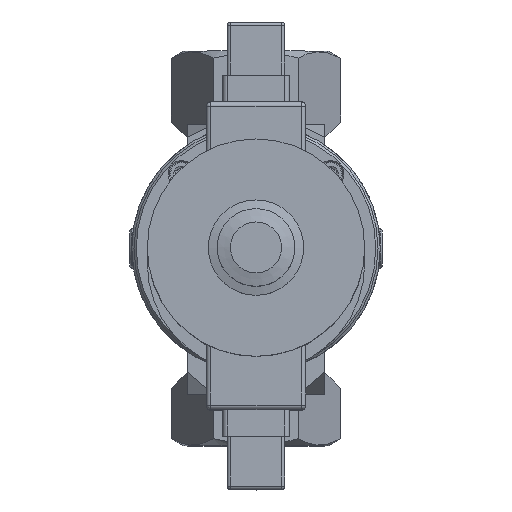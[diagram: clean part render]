
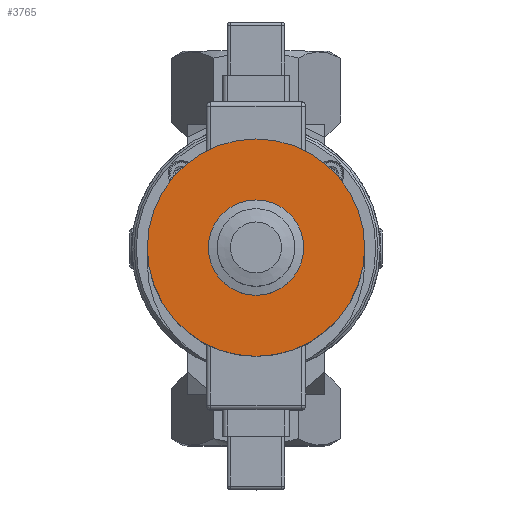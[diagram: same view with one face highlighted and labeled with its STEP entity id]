
A CAD part, top view. The second image highlights one B-rep face of the part: STEP entity #3765.
In plain terms, the highlighted planar face has unit normal (0, 0, 1).
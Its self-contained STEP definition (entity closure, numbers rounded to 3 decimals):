
#3765 = ADVANCED_FACE( '', ( #5992, #5993 ), #5994, .F. );
#5992 = FACE_BOUND( '', #8954, .T. );
#5993 = FACE_OUTER_BOUND( '', #8955, .T. );
#5994 = PLANE( '', #8956 );
#8954 = EDGE_LOOP( '', ( #14294 ) );
#8955 = EDGE_LOOP( '', ( #14295 ) );
#8956 = AXIS2_PLACEMENT_3D( '', #14296, #14297, #14298 );
#14294 = ORIENTED_EDGE( '', *, *, #15598, .T. );
#14295 = ORIENTED_EDGE( '', *, *, #15581, .F. );
#14296 = CARTESIAN_POINT( '', ( 0., -7., 80. ) );
#14297 = DIRECTION( '', ( 0., 0., -1. ) );
#14298 = DIRECTION( '', ( -1., 0., 0. ) );
#15581 = EDGE_CURVE( '', #17956, #17956, #17957, .T. );
#15598 = EDGE_CURVE( '', #17985, #17985, #17986, .T. );
#17956 = VERTEX_POINT( '', #22595 );
#17957 = CIRCLE( '', #22596, 49. );
#17985 = VERTEX_POINT( '', #22684 );
#17986 = CIRCLE( '', #22685, 20. );
#22595 = CARTESIAN_POINT( '', ( 0., 42., 80. ) );
#22596 = AXIS2_PLACEMENT_3D( '', #25328, #25329, #25330 );
#22684 = CARTESIAN_POINT( '', ( 0., 13., 80. ) );
#22685 = AXIS2_PLACEMENT_3D( '', #25355, #25356, #25357 );
#25328 = CARTESIAN_POINT( '', ( 0., -7., 80. ) );
#25329 = DIRECTION( '', ( 0., 0., -1. ) );
#25330 = DIRECTION( '', ( 0., 1., 0. ) );
#25355 = CARTESIAN_POINT( '', ( 0., -7., 80. ) );
#25356 = DIRECTION( '', ( 0., 0., -1. ) );
#25357 = DIRECTION( '', ( 0., 1., 0. ) );
